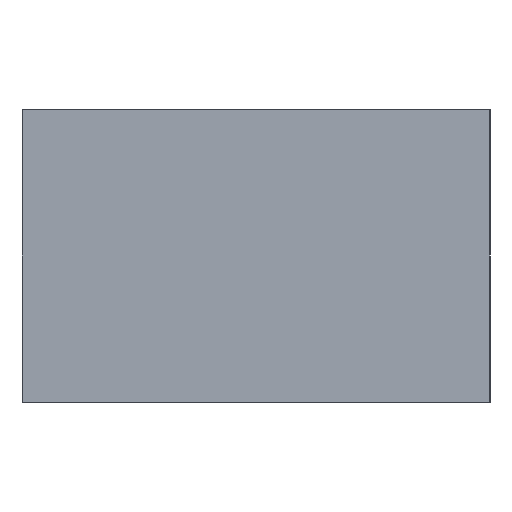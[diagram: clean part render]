
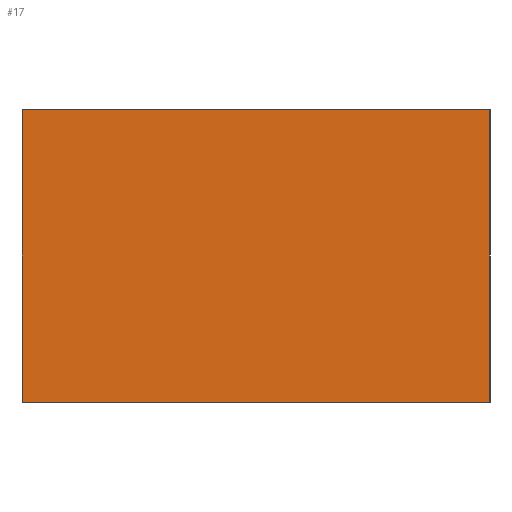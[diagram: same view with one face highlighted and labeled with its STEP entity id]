
A CAD part, left-side view. The second image highlights one B-rep face of the part: STEP entity #17.
In plain terms, the highlighted planar face has unit normal (-1, 0, 0).
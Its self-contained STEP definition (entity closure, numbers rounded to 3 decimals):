
#17 = ADVANCED_FACE('',(#18),#32,.F.);
#18 = FACE_BOUND('',#19,.F.);
#19 = EDGE_LOOP('',(#20,#55,#83,#111));
#20 = ORIENTED_EDGE('',*,*,#21,.F.);
#21 = EDGE_CURVE('',#22,#24,#26,.T.);
#22 = VERTEX_POINT('',#23);
#23 = CARTESIAN_POINT('',(0.,0.,0.));
#24 = VERTEX_POINT('',#25);
#25 = CARTESIAN_POINT('',(0.,0.,25.));
#26 = SURFACE_CURVE('',#27,(#31,#43),.PCURVE_S1.);
#27 = LINE('',#28,#29);
#28 = CARTESIAN_POINT('',(0.,0.,0.));
#29 = VECTOR('',#30,1.);
#30 = DIRECTION('',(0.,0.,1.));
#31 = PCURVE('',#32,#37);
#32 = PLANE('',#33);
#33 = AXIS2_PLACEMENT_3D('',#34,#35,#36);
#34 = CARTESIAN_POINT('',(0.,0.,0.));
#35 = DIRECTION('',(1.,0.,-0.));
#36 = DIRECTION('',(0.,0.,1.));
#37 = DEFINITIONAL_REPRESENTATION('',(#38),#42);
#38 = LINE('',#39,#40);
#39 = CARTESIAN_POINT('',(0.,0.));
#40 = VECTOR('',#41,1.);
#41 = DIRECTION('',(1.,0.));
#42 = ( GEOMETRIC_REPRESENTATION_CONTEXT(2) 
PARAMETRIC_REPRESENTATION_CONTEXT() REPRESENTATION_CONTEXT('2D SPACE',''
  ) );
#43 = PCURVE('',#44,#49);
#44 = PLANE('',#45);
#45 = AXIS2_PLACEMENT_3D('',#46,#47,#48);
#46 = CARTESIAN_POINT('',(0.,0.,0.));
#47 = DIRECTION('',(-0.,1.,0.));
#48 = DIRECTION('',(0.,0.,1.));
#49 = DEFINITIONAL_REPRESENTATION('',(#50),#54);
#50 = LINE('',#51,#52);
#51 = CARTESIAN_POINT('',(0.,0.));
#52 = VECTOR('',#53,1.);
#53 = DIRECTION('',(1.,0.));
#54 = ( GEOMETRIC_REPRESENTATION_CONTEXT(2) 
PARAMETRIC_REPRESENTATION_CONTEXT() REPRESENTATION_CONTEXT('2D SPACE',''
  ) );
#55 = ORIENTED_EDGE('',*,*,#56,.T.);
#56 = EDGE_CURVE('',#22,#57,#59,.T.);
#57 = VERTEX_POINT('',#58);
#58 = CARTESIAN_POINT('',(0.,40.,0.));
#59 = SURFACE_CURVE('',#60,(#64,#71),.PCURVE_S1.);
#60 = LINE('',#61,#62);
#61 = CARTESIAN_POINT('',(0.,0.,0.));
#62 = VECTOR('',#63,1.);
#63 = DIRECTION('',(-0.,1.,0.));
#64 = PCURVE('',#32,#65);
#65 = DEFINITIONAL_REPRESENTATION('',(#66),#70);
#66 = LINE('',#67,#68);
#67 = CARTESIAN_POINT('',(0.,0.));
#68 = VECTOR('',#69,1.);
#69 = DIRECTION('',(0.,-1.));
#70 = ( GEOMETRIC_REPRESENTATION_CONTEXT(2) 
PARAMETRIC_REPRESENTATION_CONTEXT() REPRESENTATION_CONTEXT('2D SPACE',''
  ) );
#71 = PCURVE('',#72,#77);
#72 = PLANE('',#73);
#73 = AXIS2_PLACEMENT_3D('',#74,#75,#76);
#74 = CARTESIAN_POINT('',(0.,0.,0.));
#75 = DIRECTION('',(0.,0.,1.));
#76 = DIRECTION('',(1.,0.,-0.));
#77 = DEFINITIONAL_REPRESENTATION('',(#78),#82);
#78 = LINE('',#79,#80);
#79 = CARTESIAN_POINT('',(0.,0.));
#80 = VECTOR('',#81,1.);
#81 = DIRECTION('',(0.,1.));
#82 = ( GEOMETRIC_REPRESENTATION_CONTEXT(2) 
PARAMETRIC_REPRESENTATION_CONTEXT() REPRESENTATION_CONTEXT('2D SPACE',''
  ) );
#83 = ORIENTED_EDGE('',*,*,#84,.T.);
#84 = EDGE_CURVE('',#57,#85,#87,.T.);
#85 = VERTEX_POINT('',#86);
#86 = CARTESIAN_POINT('',(0.,40.,25.));
#87 = SURFACE_CURVE('',#88,(#92,#99),.PCURVE_S1.);
#88 = LINE('',#89,#90);
#89 = CARTESIAN_POINT('',(0.,40.,0.));
#90 = VECTOR('',#91,1.);
#91 = DIRECTION('',(0.,0.,1.));
#92 = PCURVE('',#32,#93);
#93 = DEFINITIONAL_REPRESENTATION('',(#94),#98);
#94 = LINE('',#95,#96);
#95 = CARTESIAN_POINT('',(0.,-40.));
#96 = VECTOR('',#97,1.);
#97 = DIRECTION('',(1.,0.));
#98 = ( GEOMETRIC_REPRESENTATION_CONTEXT(2) 
PARAMETRIC_REPRESENTATION_CONTEXT() REPRESENTATION_CONTEXT('2D SPACE',''
  ) );
#99 = PCURVE('',#100,#105);
#100 = PLANE('',#101);
#101 = AXIS2_PLACEMENT_3D('',#102,#103,#104);
#102 = CARTESIAN_POINT('',(0.,40.,0.));
#103 = DIRECTION('',(-0.,1.,0.));
#104 = DIRECTION('',(0.,0.,1.));
#105 = DEFINITIONAL_REPRESENTATION('',(#106),#110);
#106 = LINE('',#107,#108);
#107 = CARTESIAN_POINT('',(0.,0.));
#108 = VECTOR('',#109,1.);
#109 = DIRECTION('',(1.,0.));
#110 = ( GEOMETRIC_REPRESENTATION_CONTEXT(2) 
PARAMETRIC_REPRESENTATION_CONTEXT() REPRESENTATION_CONTEXT('2D SPACE',''
  ) );
#111 = ORIENTED_EDGE('',*,*,#112,.F.);
#112 = EDGE_CURVE('',#24,#85,#113,.T.);
#113 = SURFACE_CURVE('',#114,(#118,#125),.PCURVE_S1.);
#114 = LINE('',#115,#116);
#115 = CARTESIAN_POINT('',(0.,0.,25.));
#116 = VECTOR('',#117,1.);
#117 = DIRECTION('',(-0.,1.,0.));
#118 = PCURVE('',#32,#119);
#119 = DEFINITIONAL_REPRESENTATION('',(#120),#124);
#120 = LINE('',#121,#122);
#121 = CARTESIAN_POINT('',(25.,0.));
#122 = VECTOR('',#123,1.);
#123 = DIRECTION('',(0.,-1.));
#124 = ( GEOMETRIC_REPRESENTATION_CONTEXT(2) 
PARAMETRIC_REPRESENTATION_CONTEXT() REPRESENTATION_CONTEXT('2D SPACE',''
  ) );
#125 = PCURVE('',#126,#131);
#126 = PLANE('',#127);
#127 = AXIS2_PLACEMENT_3D('',#128,#129,#130);
#128 = CARTESIAN_POINT('',(0.,0.,25.));
#129 = DIRECTION('',(0.,0.,1.));
#130 = DIRECTION('',(1.,0.,-0.));
#131 = DEFINITIONAL_REPRESENTATION('',(#132),#136);
#132 = LINE('',#133,#134);
#133 = CARTESIAN_POINT('',(0.,0.));
#134 = VECTOR('',#135,1.);
#135 = DIRECTION('',(0.,1.));
#136 = ( GEOMETRIC_REPRESENTATION_CONTEXT(2) 
PARAMETRIC_REPRESENTATION_CONTEXT() REPRESENTATION_CONTEXT('2D SPACE',''
  ) );
